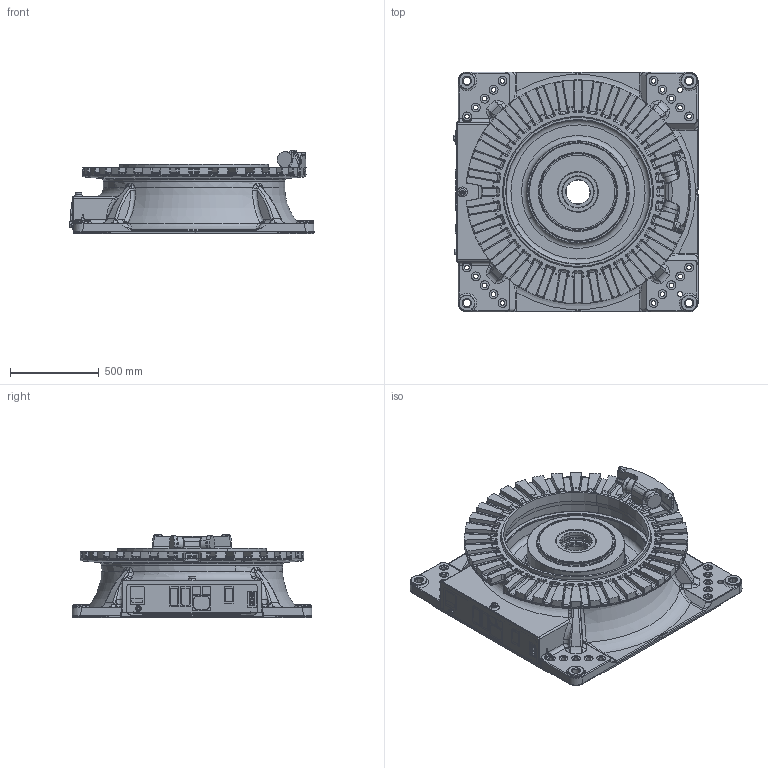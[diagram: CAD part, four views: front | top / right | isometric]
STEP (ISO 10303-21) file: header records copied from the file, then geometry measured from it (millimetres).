
FILE_DESCRIPTION(('CATIA V5 STEP Exchange','CAx-IF Rec.Pracs.--- Model Styling and Organization---1.2---2011-12-15','CAx-IF Rec.Pracs.--- Geometric and Assembly Validation Properties ---3.1---2011-10-19'),'2;1');
FILE_NAME('Z:\ROBOT\CATIA06\products\MC1000DL\Light_model\Step\010_BASE_MC1000DL-02.stp','2016-12-26T04:15:29+00:00',('none'),('none'),'Version 5-6 Release 2012','CATIA V5 STEP AP214','none');
FILE_SCHEMA(('AUTOMOTIVE_DESIGN { 1 0 10303 214 1 1 1 1 }'));
Length unit declared in the file: millimetre
Products named in the file (1): 010_BASE_MC1000DL-02
Bounding box: 1372.7 x 1350 x 470 mm (x, y, z)
Volume: 170985423.8 mm3; surface area: 10421933.2 mm2
Topology: 48 solids, 49 shells, 2965 faces, 7068 edges, 4189 vertices
Faces by surface type: bspline 891, plane 721, cylinder 688, torus 318, cone 305, sphere 42
Entity records: 150633 total; most frequent: CARTESIAN_POINT 93058, ORIENTED_EDGE 13940, EDGE_CURVE 6970, DIRECTION 6958, VERTEX_POINT 4189, AXIS2_PLACEMENT_3D 3514, EDGE_LOOP 3143, B_SPLINE_CURVE_WITH_KNOTS 3086
